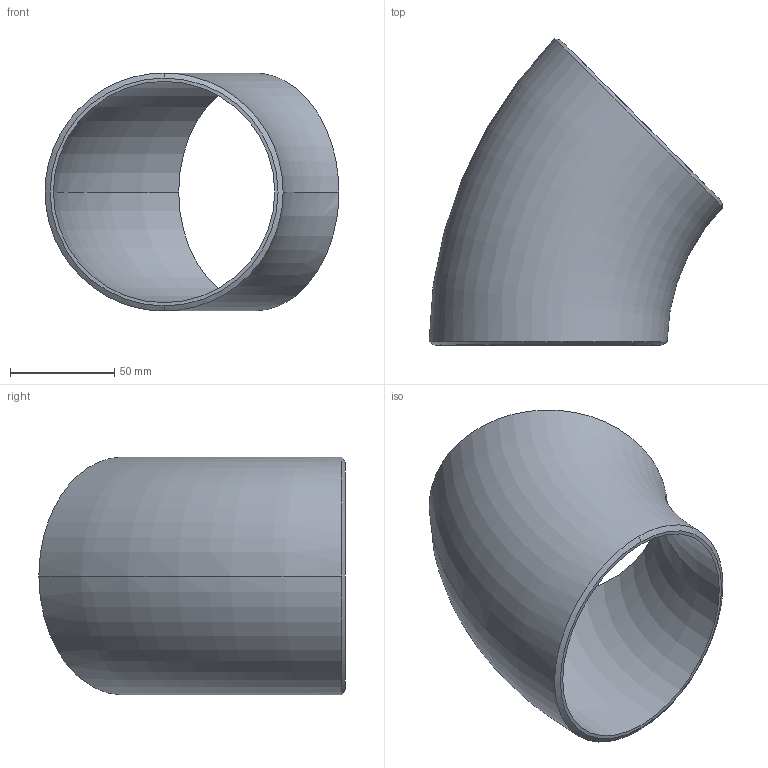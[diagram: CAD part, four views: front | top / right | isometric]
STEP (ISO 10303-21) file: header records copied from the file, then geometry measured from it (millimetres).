
FILE_DESCRIPTION (( 'STEP AP214' ), '1' );
FILE_NAME ('Elbow-long-45deg_Sch20S-100A.STEP', '2022-06-28T07:04:02', ( 'ASIS User' ), ( 'ASIS User' ), 'SwSTEP 2.0', 'SolidWorks 2022', '' );
FILE_SCHEMA (( 'AUTOMOTIVE_DESIGN' ));
Length unit declared in the file: millimetre
Products named in the file (1): Elbow-long-45deg_Sch20S-100A
Bounding box: 141.1 x 147.05 x 114.3 mm (x, y, z)
Volume: 164539.9 mm3; surface area: 84906.4 mm2
Topology: 1 solids, 1 shells, 10 faces, 22 edges, 14 vertices
Faces by surface type: torus 4, cone 4, plane 2
Entity records: 580 total; most frequent: CARTESIAN_POINT 319, DIRECTION 50, ORIENTED_EDGE 44, AXIS2_PLACEMENT_3D 23, EDGE_CURVE 22, VERTEX_POINT 14, EDGE_LOOP 12, CIRCLE 12
